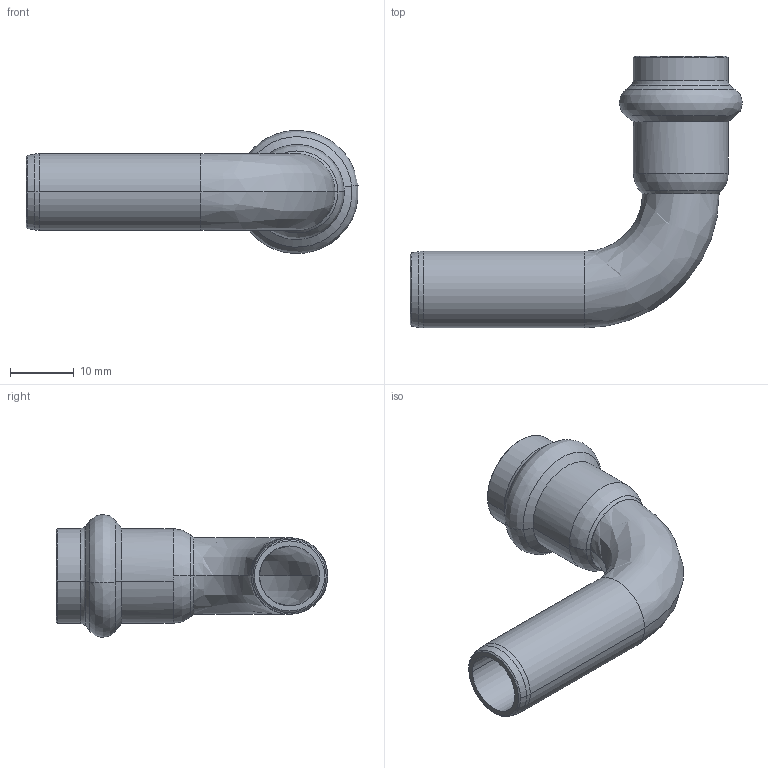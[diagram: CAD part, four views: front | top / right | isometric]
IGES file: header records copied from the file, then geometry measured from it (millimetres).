
Start section: Elysium IGES Interface
Global section: file name: C:\3d modellen sudo\C-Pr VP\SP8001V\8001VW12.igs; native system: CoCreate Modeling 17.00A  17-Jun-2010; preprocessor: CoCreate IGES_3D V2.2; author: Unknown; organization: Unknown; date: 20130129.141400; units: millimetre
Bounding box: 51.99 x 42.53 x 19.27 mm (x, y, z)
Volume: 3949.2 mm3; surface area: 5576.8 mm2
Topology: 1 solids, 1 shells, 56 faces, 118 edges, 66 vertices
Faces by surface type: bspline 56
